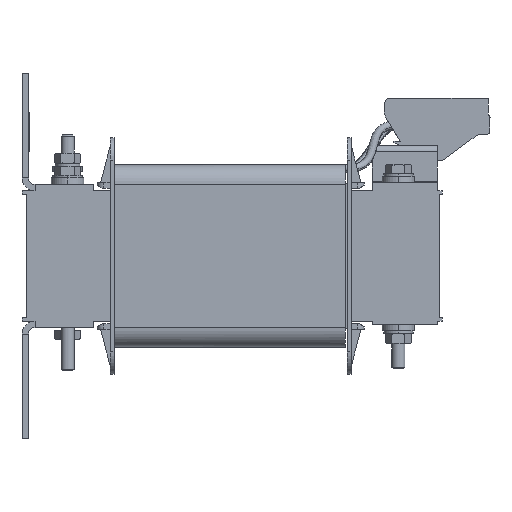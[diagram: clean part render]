
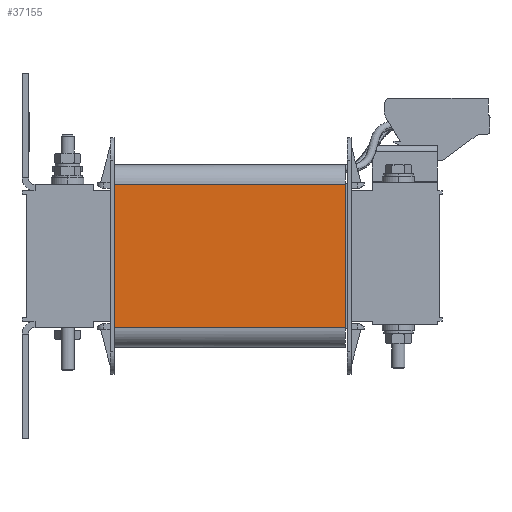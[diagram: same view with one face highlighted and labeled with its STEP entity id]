
A CAD part, left-side view. The second image highlights one B-rep face of the part: STEP entity #37155.
In plain terms, the highlighted planar face has unit normal (-1, 0, 0).
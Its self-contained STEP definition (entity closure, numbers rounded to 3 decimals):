
#6139=DIRECTION('',(0.,0.,1.));
#6140=VECTOR('',#6139,44.);
#6141=CARTESIAN_POINT('',(-70.5,-35.2,-22.));
#6142=LINE('',#6141,#6140);
#8260=DIRECTION('',(0.,0.,1.));
#8261=VECTOR('',#8260,44.);
#8262=CARTESIAN_POINT('',(-70.5,35.8,-22.));
#8263=LINE('',#8262,#8261);
#8264=DIRECTION('',(0.,-1.,0.));
#8265=VECTOR('',#8264,71.);
#8266=CARTESIAN_POINT('',(-70.5,35.8,22.));
#8267=LINE('',#8266,#8265);
#8268=DIRECTION('',(0.,-1.,0.));
#8269=VECTOR('',#8268,71.);
#8270=CARTESIAN_POINT('',(-70.5,35.8,-22.));
#8271=LINE('',#8270,#8269);
#24208=CARTESIAN_POINT('',(-70.5,-35.2,22.));
#24210=VERTEX_POINT('',#24208);
#24225=CARTESIAN_POINT('',(-70.5,-35.2,-22.));
#24227=VERTEX_POINT('',#24225);
#25233=CARTESIAN_POINT('',(-70.5,35.8,-22.));
#25234=CARTESIAN_POINT('',(-70.5,35.8,22.));
#25235=VERTEX_POINT('',#25233);
#25236=VERTEX_POINT('',#25234);
#37143=CARTESIAN_POINT('',(-70.5,-35.2,-28.));
#37144=DIRECTION('',(-1.,0.,0.));
#37145=DIRECTION('',(0.,0.,1.));
#37146=AXIS2_PLACEMENT_3D('',#37143,#37144,#37145);
#37147=PLANE('',#37146);
#37148=ORIENTED_EDGE('',*,*,#34290,.T.);
#37150=ORIENTED_EDGE('',*,*,#37149,.T.);
#37151=ORIENTED_EDGE('',*,*,#34546,.F.);
#37152=ORIENTED_EDGE('',*,*,#37135,.F.);
#37153=EDGE_LOOP('',(#37148,#37150,#37151,#37152));
#37154=FACE_OUTER_BOUND('',#37153,.F.);
#34290=EDGE_CURVE('',#25235,#25236,#8263,.T.);
#34546=EDGE_CURVE('',#24227,#24210,#6142,.T.);
#37135=EDGE_CURVE('',#25235,#24227,#8271,.T.);
#37149=EDGE_CURVE('',#25236,#24210,#8267,.T.);
#37155=ADVANCED_FACE('',(#37154),#37147,.T.);
